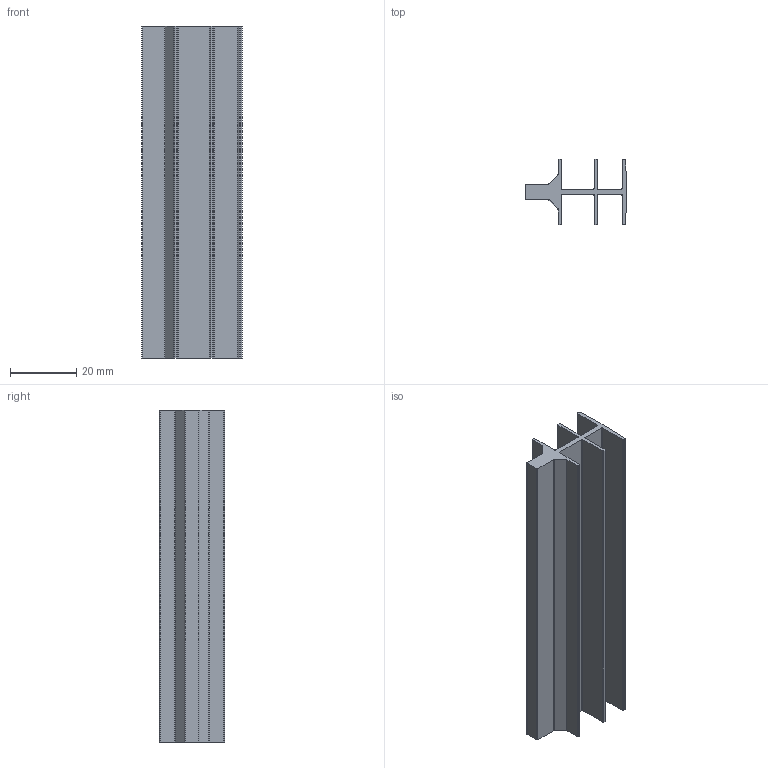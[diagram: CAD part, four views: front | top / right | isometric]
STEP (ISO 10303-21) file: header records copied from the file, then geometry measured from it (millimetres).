
FILE_DESCRIPTION(/* description */ ('VariCAD 2010-3.03 AP-214'),/* implementation_level */ '2;1');
FILE_NAME(/* name */ '0353-60-04',/* time_stamp */ '2011-05-10T16:13:03-06:00',/* author */ (''),/* organization */ (''),/* preprocessor_version */ 'ST-DEVELOPER v12',/* originating_system */ 'VariCAD 2010-3.03; kernel version (20100102)',/* authorisation */ '');
FILE_SCHEMA (('AUTOMOTIVE_DESIGN'));
Length unit declared in the file: millimetre
Products named in the file (1): Part
Bounding box: 30.36 x 19.6 x 100 mm (x, y, z)
Volume: 14313.9 mm3; surface area: 16864.9 mm2
Topology: 1 solids, 1 shells, 54 faces, 156 edges, 104 vertices
Faces by surface type: plane 27, cylinder 27
Entity records: 1821 total; most frequent: DIRECTION 322, CARTESIAN_POINT 316, ORIENTED_EDGE 312, EDGE_CURVE 156, AXIS2_PLACEMENT_3D 110, VERTEX_POINT 104, LINE 102, VECTOR 102
